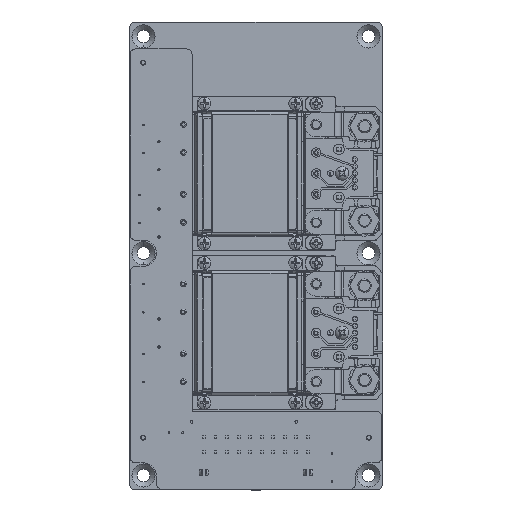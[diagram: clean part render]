
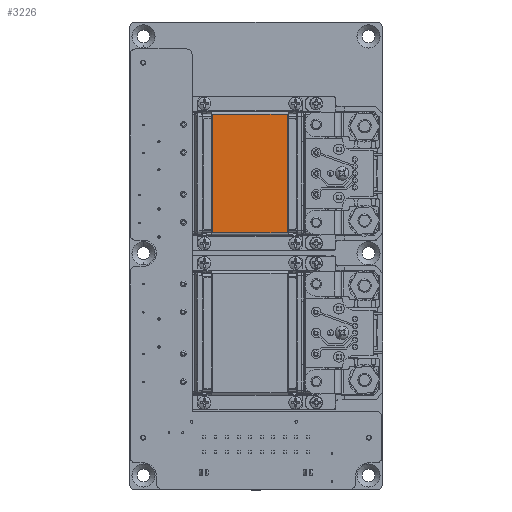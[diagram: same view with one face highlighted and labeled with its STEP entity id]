
A CAD part, top view. The second image highlights one B-rep face of the part: STEP entity #3226.
In plain terms, the highlighted planar face has unit normal (0, 0, 1).
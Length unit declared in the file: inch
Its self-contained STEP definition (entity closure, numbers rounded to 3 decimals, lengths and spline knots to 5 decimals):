
#3226 = ADVANCED_FACE ( 'NONE', ( #214685 ), #161807, .T. ) ;
#60299 = AXIS2_PLACEMENT_3D ( 'NONE', #161779, #161758, #161748 ) ;
#113655 = EDGE_LOOP ( 'NONE', ( #190419, #190429, #190425, #190434 ) ) ;
#150382 = VECTOR ( 'NONE', #248201, 39.37008 ) ;
#150389 = VECTOR ( 'NONE', #248205, 39.37008 ) ;
#150402 = VECTOR ( 'NONE', #248213, 39.37008 ) ;
#150421 = VECTOR ( 'NONE', #248225, 39.37008 ) ;
#161748 = DIRECTION ( 'NONE',  ( 1., 0., 0. ) ) ;
#161758 = DIRECTION ( 'NONE',  ( 0., 0., 1. ) ) ;
#161779 = CARTESIAN_POINT ( 'NONE',  ( -2.40425, 0.40184, 0.71844 ) ) ;
#161807 = PLANE ( 'NONE',  #60299 ) ;
#189063 = VERTEX_POINT ( 'NONE', #206755 ) ;
#189066 = VERTEX_POINT ( 'NONE', #206758 ) ;
#189069 = VERTEX_POINT ( 'NONE', #206761 ) ;
#189072 = VERTEX_POINT ( 'NONE', #206764 ) ;
#190419 = ORIENTED_EDGE ( 'NONE', *, *, #204230, .F. ) ;
#190425 = ORIENTED_EDGE ( 'NONE', *, *, #204226, .F. ) ;
#190429 = ORIENTED_EDGE ( 'NONE', *, *, #204236, .F. ) ;
#190434 = ORIENTED_EDGE ( 'NONE', *, *, #204224, .F. ) ;
#204224 = EDGE_CURVE ( 'NONE', #189069, #189063, #245019, .T. ) ;
#204226 = EDGE_CURVE ( 'NONE', #189063, #189066, #245021, .T. ) ;
#204230 = EDGE_CURVE ( 'NONE', #189072, #189069, #245025, .T. ) ;
#204236 = EDGE_CURVE ( 'NONE', #189066, #189072, #245031, .T. ) ;
#206755 = CARTESIAN_POINT ( 'NONE',  ( -2.43694, 2.03598, 0.71844 ) ) ;
#206758 = CARTESIAN_POINT ( 'NONE',  ( -1.36373, 2.03598, 0.71844 ) ) ;
#206761 = CARTESIAN_POINT ( 'NONE',  ( -2.43694, 0.33088, 0.71844 ) ) ;
#206764 = CARTESIAN_POINT ( 'NONE',  ( -1.36373, 0.33088, 0.71844 ) ) ;
#214685 = FACE_OUTER_BOUND ( 'NONE', #113655, .T. ) ;
#245019 = LINE ( 'NONE', #248200, #150382 ) ;
#245021 = LINE ( 'NONE', #248204, #150389 ) ;
#245025 = LINE ( 'NONE', #248212, #150402 ) ;
#245031 = LINE ( 'NONE', #248224, #150421 ) ;
#248200 = CARTESIAN_POINT ( 'NONE',  ( -2.43694, 2.03473, 0.71844 ) ) ;
#248201 = DIRECTION ( 'NONE',  ( 0., 1., 0. ) ) ;
#248204 = CARTESIAN_POINT ( 'NONE',  ( -1.34868, 2.03598, 0.71844 ) ) ;
#248205 = DIRECTION ( 'NONE',  ( 1., 0., 0. ) ) ;
#248212 = CARTESIAN_POINT ( 'NONE',  ( -2.45198, 0.33088, 0.71844 ) ) ;
#248213 = DIRECTION ( 'NONE',  ( -1., 0., 0. ) ) ;
#248224 = CARTESIAN_POINT ( 'NONE',  ( -1.36373, 0.33212, 0.71844 ) ) ;
#248225 = DIRECTION ( 'NONE',  ( 0., -1., 0. ) ) ;
